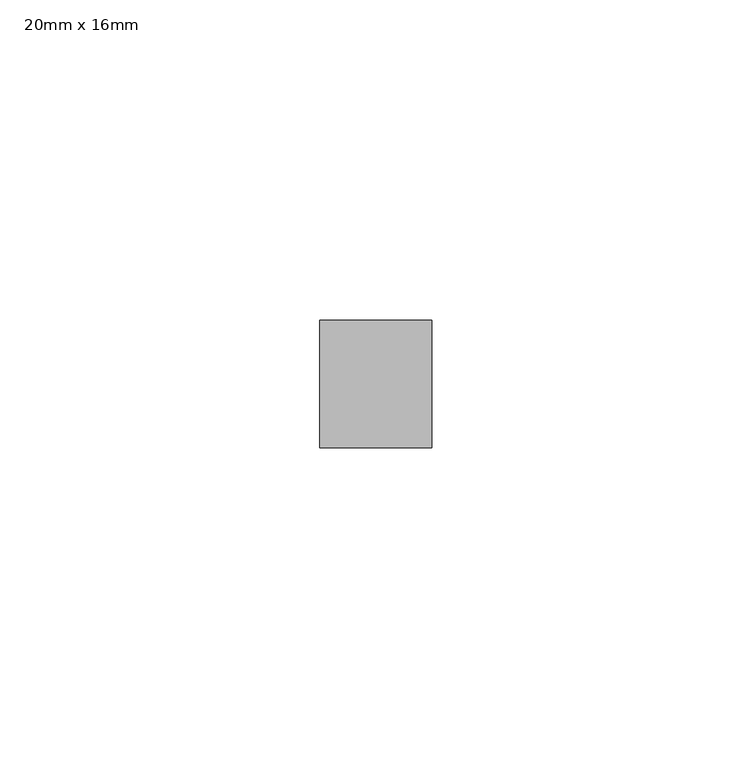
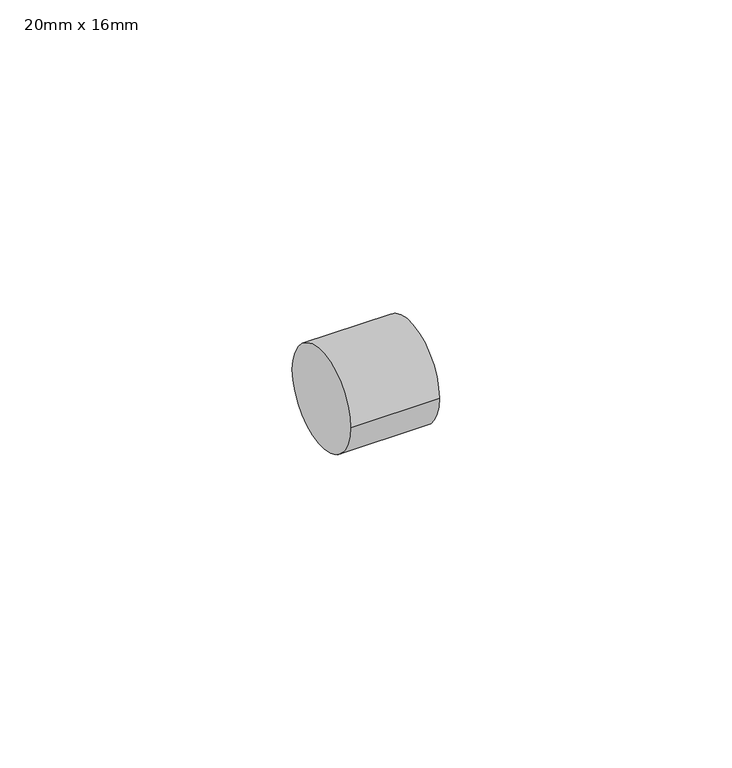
"""IFC4 building model written with IfcOpenShell, lengths in millimetres: pipe fitting geometry, PipeFitting_HTA_CPVC_ReducingBushesShortPattern : 20mm x 16mm."""

from ifc_helpers import new_model, si_unit, point, frame, origin, origin_2d, place, context, project, spatial, circle_curve, trimmed, segment, composite_curve, outline, extrude, source, transform, mapped, element, save


def pipe_fitting_20mm_x_16mm_a3bd82a1(model_context):
    return source(origin(), model_context, "Body", "SweptSolid", [
        extrude(outline(composite_curve([segment(trimmed(circle_curve(origin_2d(), 10.0), [point((-10.0, 0.0))], [point((10.0, 0.0))], False, "CARTESIAN"), True, "CONTINUOUS"), segment(trimmed(circle_curve(origin_2d(), 10.0), [point((10.0, 0.0))], [point((-10.0, 0.0))], False, "CARTESIAN"), True, "CONTINUOUS")], self_intersect=False)), frame((-8.75, 0.0, 0.0), z_axis=(1.0, 0.0, 0.0), x_axis=(0.0, 1.0, 0.0)), (0.0, 0.0, 1.0), 17.5),
    ])


if __name__ == "__main__":
    model = new_model("IFC4")
    model_context = context("Model", 3, world=origin())
    ifc_project = project(units=[si_unit("LENGTHUNIT", "METRE", prefix="MILLI")], contexts=[model_context])
    site = spatial("IfcSite", under=ifc_project)
    building = spatial("IfcBuilding", under=site)
    placement = place(None, origin())
    pipe_fitting_20mm_x_16mm_shape = pipe_fitting_20mm_x_16mm_a3bd82a1(model_context)
    element("IfcPipeFitting", 1, ObjectType="PipeFitting_HTA_CPVC_ReducingBushesShortPattern : 20mm x 16mm", at=placement, inside=building, context=model_context, shape_type="MappedRepresentation", body=[
        mapped(pipe_fitting_20mm_x_16mm_shape, transform((0.0, 0.0, 0.0), x_axis=(1.0, 0.0, 0.0), y_axis=(0.0, 1.0, 0.0), z_axis=(0.0, 0.0, 1.0))),
    ])
    save(model, "model.ifc")
